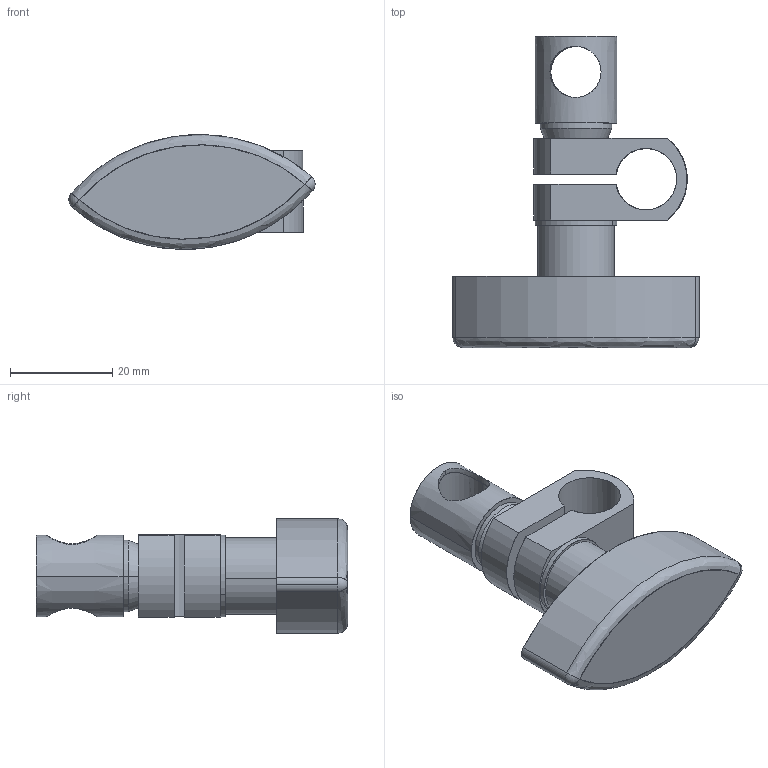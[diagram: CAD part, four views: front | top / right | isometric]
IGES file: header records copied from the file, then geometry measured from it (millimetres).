
Start section: SolidWorks IGES file using analytic representation for surfaces
Global section: file name: C:\Documents and Settings\CAD58\デスクトップ\CLIP\12-10CLIP\12-10CLIP.IGS; native system: SolidWorks 2006 by SolidWorks Corporation; preprocessor: SolidWorks 2006 by SolidWorks Corporation; author: CAD58; date: 090107.172517; units: millimetre
Bounding box: 48.19 x 61 x 22.47 mm (x, y, z)
Surface area: 10598.2 mm2 (no closed solid volume)
Topology: 0 solids, 0 shells, 53 faces, 1346 edges, 1344 vertices
Faces by surface type: revolution 36, bspline 17
